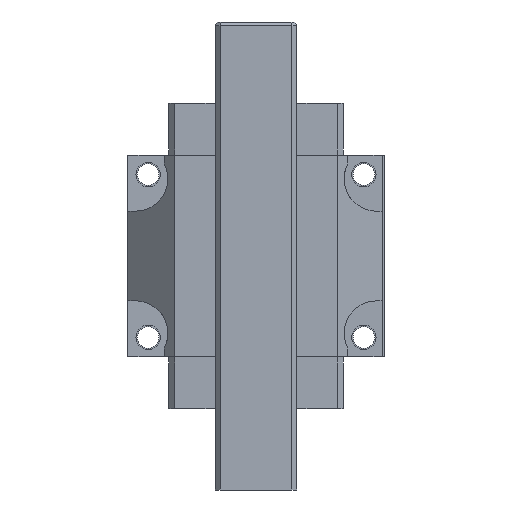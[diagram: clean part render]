
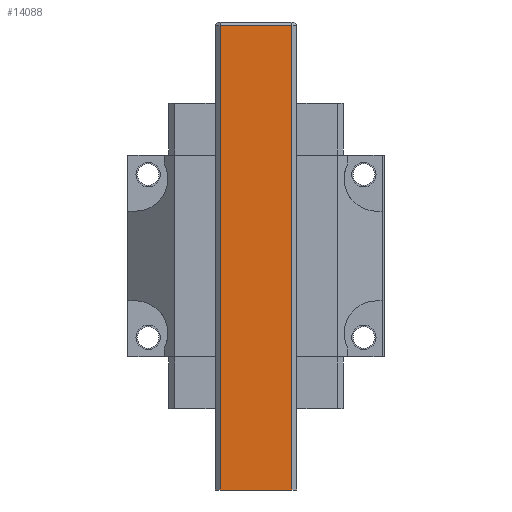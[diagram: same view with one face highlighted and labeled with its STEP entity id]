
A CAD part, front view. The second image highlights one B-rep face of the part: STEP entity #14088.
In plain terms, the highlighted planar face has unit normal (0, -1, 0).
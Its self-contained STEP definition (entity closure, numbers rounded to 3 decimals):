
#13049=DIRECTION('',(1.,0.,0.));
#13050=VECTOR('',#13049,17.6);
#13051=CARTESIAN_POINT('',(-8.8,-12.4,-57.5));
#13052=LINE('',#13051,#13050);
#13322=DIRECTION('',(1.,0.,0.));
#13323=VECTOR('',#13322,17.6);
#13324=CARTESIAN_POINT('',(-8.8,-12.4,56.634));
#13325=LINE('',#13324,#13323);
#13326=DIRECTION('',(0.,0.,1.));
#13327=VECTOR('',#13326,114.134);
#13328=CARTESIAN_POINT('',(-8.8,-12.4,-57.5));
#13329=LINE('',#13328,#13327);
#13334=DIRECTION('',(0.,0.,1.));
#13335=VECTOR('',#13334,114.134);
#13336=CARTESIAN_POINT('',(8.8,-12.4,-57.5));
#13337=LINE('',#13336,#13335);
#13520=CARTESIAN_POINT('',(-8.8,-12.4,-57.5));
#13521=VERTEX_POINT('',#13520);
#13522=CARTESIAN_POINT('',(8.8,-12.4,-57.5));
#13523=VERTEX_POINT('',#13522);
#13584=CARTESIAN_POINT('',(8.8,-12.4,56.634));
#13585=VERTEX_POINT('',#13584);
#13588=CARTESIAN_POINT('',(-8.8,-12.4,56.634));
#13589=VERTEX_POINT('',#13588);
#14076=CARTESIAN_POINT('',(-8.8,-12.4,-57.5));
#14077=DIRECTION('',(0.,-1.,0.));
#14078=DIRECTION('',(1.,0.,0.));
#14079=AXIS2_PLACEMENT_3D('',#14076,#14077,#14078);
#14080=PLANE('',#14079);
#14081=ORIENTED_EDGE('',*,*,#14067,.T.);
#14083=ORIENTED_EDGE('',*,*,#14082,.F.);
#14084=ORIENTED_EDGE('',*,*,#13669,.F.);
#14085=ORIENTED_EDGE('',*,*,#14042,.T.);
#14086=EDGE_LOOP('',(#14081,#14083,#14084,#14085));
#14087=FACE_OUTER_BOUND('',#14086,.F.);
#13669=EDGE_CURVE('',#13521,#13523,#13052,.T.);
#14042=EDGE_CURVE('',#13521,#13589,#13329,.T.);
#14067=EDGE_CURVE('',#13589,#13585,#13325,.T.);
#14082=EDGE_CURVE('',#13523,#13585,#13337,.T.);
#14088=ADVANCED_FACE('',(#14087),#14080,.T.);
